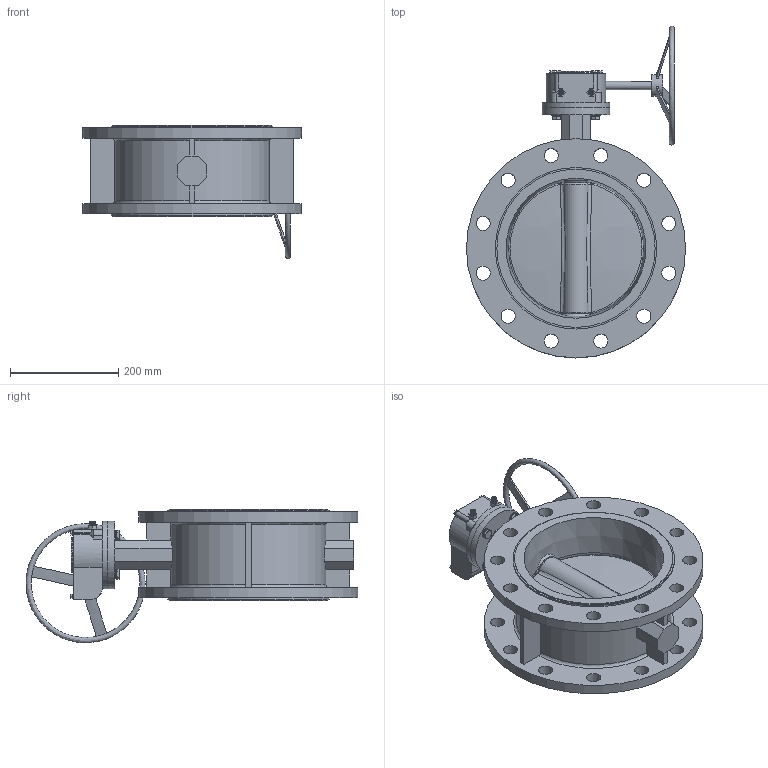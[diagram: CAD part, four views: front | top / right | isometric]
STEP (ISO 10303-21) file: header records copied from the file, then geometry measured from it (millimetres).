
FILE_DESCRIPTION (( 'STEP AP214' ), '1' );
FILE_NAME ('恦謫 邧楊擘評概 Fig.3226-204B-250-16.STEP', '2026-03-20T02:03:49', ( '' ), ( '' ), 'SwSTEP 2.0', 'SolidWorks 2024', '' );
FILE_SCHEMA (( 'AUTOMOTIVE_DESIGN' ));
Length unit declared in the file: millimetre
Products named in the file (1): 涡轮 双法兰蝶阀 Fig.3226-204B-250-16
Bounding box: 405 x 613.46 x 246.96 mm (x, y, z)
Surface area: 867377.7 mm2 (no closed solid volume)
Topology: 0 solids, 1 shells, 614 faces, 1587 edges, 1031 vertices
Faces by surface type: plane 301, bspline 173, cylinder 98, cone 42
Full cylindrical faces by diameter (mm): 6 x4, 10 x10, 10.9 x4, 12 x4, 15 x1, 16.9 x4, 20 x1, 26 x24, 40 x1, 64 x1, 83 x1, 125 x1, 125.02 x1, 292.4 x2, 298.4 x2, 405 x2
Entity records: 61161 total; most frequent: CARTESIAN_POINT 44071, ORIENTED_EDGE 2972, DIRECTION 1856, EDGE_CURVE 1497, VERTEX_POINT 1006, EDGE_LOOP 809, FACE_OUTER_BOUND 668, LINE 650
